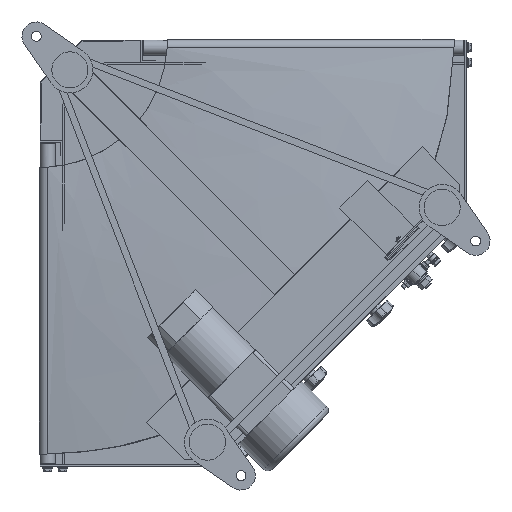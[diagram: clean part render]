
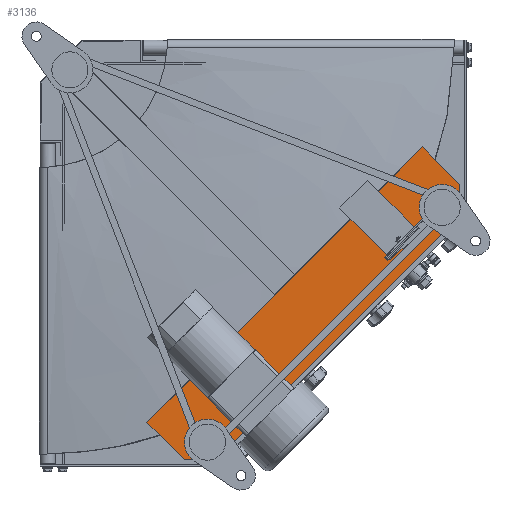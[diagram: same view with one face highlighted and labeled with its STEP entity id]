
A CAD part, front view. The second image highlights one B-rep face of the part: STEP entity #3136.
In plain terms, the highlighted planar face has unit normal (0, -1, 0).
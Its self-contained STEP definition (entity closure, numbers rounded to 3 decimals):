
#3136=ADVANCED_FACE('',(#12969),#12968,.F.);
#12968=PLANE('',#20717);
#12969=FACE_OUTER_BOUND('',#20718,.T.);
#20714=CARTESIAN_POINT('',(131.775,-167.5,-566.847));
#20715=DIRECTION('',(0.,1.,0.));
#20716=DIRECTION('',(0.,0.,1.));
#20717=AXIS2_PLACEMENT_3D('',#20714,#20715,#20716);
#20718=EDGE_LOOP('',(#27389,#27390,#27391,#27392,#27393,#27394));
#27389=ORIENTED_EDGE('',*,*,#30553,.F.);
#27390=ORIENTED_EDGE('',*,*,#30542,.F.);
#27391=ORIENTED_EDGE('',*,*,#30551,.F.);
#27392=ORIENTED_EDGE('',*,*,#30559,.F.);
#27393=ORIENTED_EDGE('',*,*,#30557,.F.);
#27394=ORIENTED_EDGE('',*,*,#30555,.F.);
#30542=EDGE_CURVE('',#45368,#45369,#45370,.T.);
#30551=EDGE_CURVE('',#45430,#45368,#45431,.T.);
#30553=EDGE_CURVE('',#45369,#45443,#45444,.T.);
#30555=EDGE_CURVE('',#45443,#45456,#45457,.T.);
#30557=EDGE_CURVE('',#45456,#45469,#45470,.T.);
#30559=EDGE_CURVE('',#45469,#45430,#45482,.T.);
#45368=VERTEX_POINT('',#58606);
#45369=VERTEX_POINT('',#58607);
#45370=LINE('',#58608,#58609);
#45430=VERTEX_POINT('',#58641);
#45431=LINE('',#58642,#58643);
#45443=VERTEX_POINT('',#58648);
#45444=LINE('',#58649,#58650);
#45456=VERTEX_POINT('',#58655);
#45457=LINE('',#58656,#58657);
#45469=VERTEX_POINT('',#58662);
#45470=LINE('',#58663,#58664);
#45482=LINE('',#58669,#58670);
#58606=CARTESIAN_POINT('',(507.349,-167.5,-141.775));
#58607=CARTESIAN_POINT('',(556.847,-167.5,-191.272));
#58608=CARTESIAN_POINT('',(507.349,-167.5,-141.775));
#58609=VECTOR('',#58610,70.);
#58610=DIRECTION('',(0.707,0.,-0.707));
#58641=CARTESIAN_POINT('',(141.775,-167.5,-507.349));
#58642=CARTESIAN_POINT('',(141.775,-167.5,-507.349));
#58643=VECTOR('',#58644,517.);
#58644=DIRECTION('',(0.707,0.,0.707));
#58648=CARTESIAN_POINT('',(556.847,-167.5,-233.699));
#58649=CARTESIAN_POINT('',(556.847,-167.5,-191.272));
#58650=VECTOR('',#58651,42.426);
#58651=DIRECTION('',(0.,0.,-1.));
#58655=CARTESIAN_POINT('',(233.699,-167.5,-556.847));
#58656=CARTESIAN_POINT('',(556.847,-167.5,-233.699));
#58657=VECTOR('',#58658,457.);
#58658=DIRECTION('',(-0.707,0.,-0.707));
#58662=CARTESIAN_POINT('',(191.272,-167.5,-556.847));
#58663=CARTESIAN_POINT('',(233.699,-167.5,-556.847));
#58664=VECTOR('',#58665,42.426);
#58665=DIRECTION('',(-1.,0.,0.));
#58669=CARTESIAN_POINT('',(191.272,-167.5,-556.847));
#58670=VECTOR('',#58671,70.);
#58671=DIRECTION('',(-0.707,0.,0.707));
